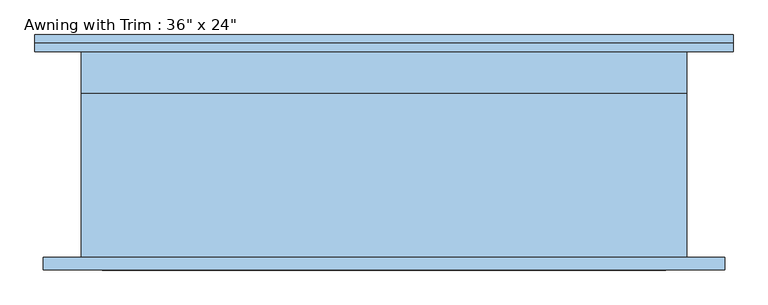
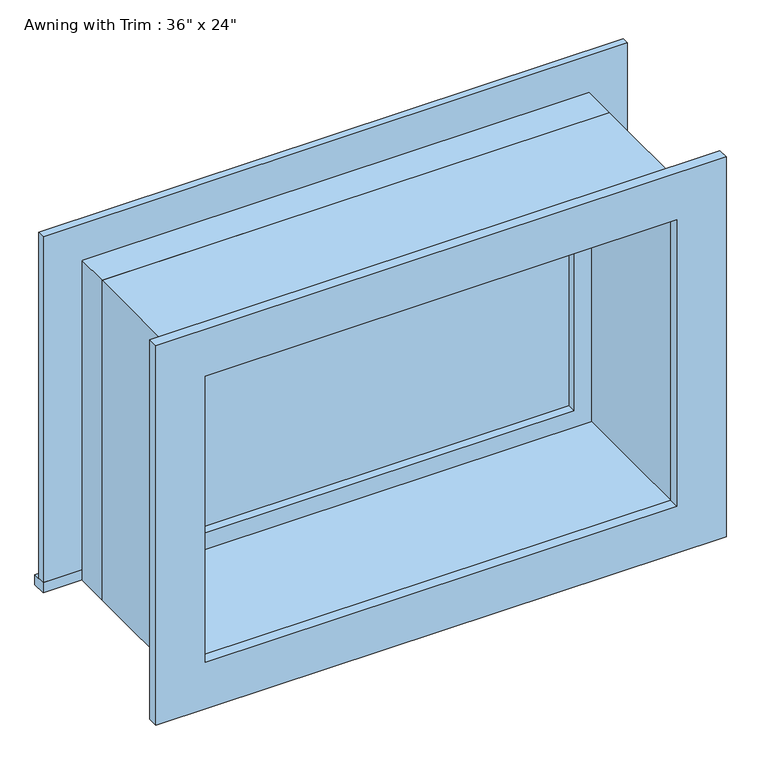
"""IFC4 building model written with IfcOpenShell, lengths in millimetres: window geometry."""

from ifc_helpers import new_model, si_unit, frame, origin, place, context, project, spatial, polyline, outline, extrude, source, transform, mapped, element, save


def window_bc8bd959(model_context):
    return source(origin(), model_context, "Body", "SweptSolid", [
        extrude(outline(polyline([(-527.05, 180.975), (527.05, 180.975), (527.05, 155.575), (-527.05, 155.575), (-527.05, 180.975)])), frame((0.0, 0.0, 914.4), z_axis=(0.0, 0.0, 1.0), x_axis=(1.0, 0.0, 0.0)), (0.0, 0.0, 1.0), 19.05),
        extrude(outline(polyline([(1504.95, -438.15), (1504.95, 438.15), (933.45, 438.15), (933.45, 527.05), (1593.85, 527.05), (1593.85, -527.05), (933.45, -527.05), (933.45, -438.15), (1504.95, -438.15)])), frame((0.0, 155.575, 0.0), z_axis=(0.0, 1.0, 0.0), x_axis=(0.0, 0.0, 1.0)), (0.0, 0.0, 1.0), 12.7),
        extrude(outline(polyline([(1581.15, 514.35), (1581.15, -514.35), (857.25, -514.35), (857.25, 514.35), (1581.15, 514.35)]), holes=[polyline([(1492.25, 425.45), (946.15, 425.45), (946.15, -425.45), (1492.25, -425.45), (1492.25, 425.45)])]), frame((0.0, -174.625, 0.0), z_axis=(0.0, 1.0, 0.0), x_axis=(0.0, 0.0, 1.0)), (0.0, 0.0, 1.0), 19.05),
        extrude(outline(polyline([(393.7, 107.95), (-393.7, 107.95), (-393.7, 120.65), (393.7, 120.65), (393.7, 107.95)])), frame((0.0, 0.0, 977.9), z_axis=(0.0, 0.0, 1.0), x_axis=(1.0, 0.0, 0.0)), (0.0, 0.0, 1.0), 482.6),
        extrude(outline(polyline([(1504.95, -438.15), (933.45, -438.15), (933.45, 438.15), (1504.95, 438.15), (1504.95, -438.15)]), holes=[polyline([(1460.5, -393.7), (1460.5, 393.7), (977.9, 393.7), (977.9, -393.7), (1460.5, -393.7)])]), frame((0.0, 92.075, 0.0), z_axis=(0.0, 1.0, 0.0), x_axis=(0.0, 0.0, 1.0)), (0.0, 0.0, 1.0), 44.45),
        extrude(outline(polyline([(1524.0, -457.2), (914.4, -457.2), (914.4, 457.2), (1524.0, 457.2), (1524.0, -457.2)]), holes=[polyline([(1492.25, -425.45), (1492.25, 425.45), (946.15, 425.45), (946.15, -425.45), (1492.25, -425.45)])]), frame((0.0, -155.575, 0.0), z_axis=(0.0, 1.0, 0.0), x_axis=(0.0, 0.0, 1.0)), (0.0, 0.0, 1.0), 247.65),
        extrude(outline(polyline([(1524.0, 457.2), (1524.0, -457.2), (914.4, -457.2), (914.4, 457.2), (1524.0, 457.2)]), holes=[polyline([(1504.95, 438.15), (933.45, 438.15), (933.45, -438.15), (1504.95, -438.15), (1504.95, 438.15)])]), frame((0.0, 92.075, 0.0), z_axis=(0.0, 1.0, 0.0), x_axis=(0.0, 0.0, 1.0)), (0.0, 0.0, 1.0), 63.5),
    ])


if __name__ == "__main__":
    model = new_model("IFC4")
    model_context = context("Model", 3, world=origin())
    ifc_project = project(units=[si_unit("LENGTHUNIT", "METRE", prefix="MILLI")], contexts=[model_context])
    site = spatial("IfcSite", under=ifc_project)
    building = spatial("IfcBuilding", under=site)
    placement = place(None, origin())
    window_shape = window_bc8bd959(model_context)
    element("IfcWindow", 1, ObjectType="Awning with Trim : 36\" x 24\"", at=placement, inside=building, context=model_context, shape_type="MappedRepresentation", body=[
        mapped(window_shape, transform((0.0, 0.0, 0.0), x_axis=(1.0, 0.0, 0.0), y_axis=(0.0, 1.0, 0.0), z_axis=(0.0, 0.0, 1.0))),
    ])
    save(model, "model.ifc")
